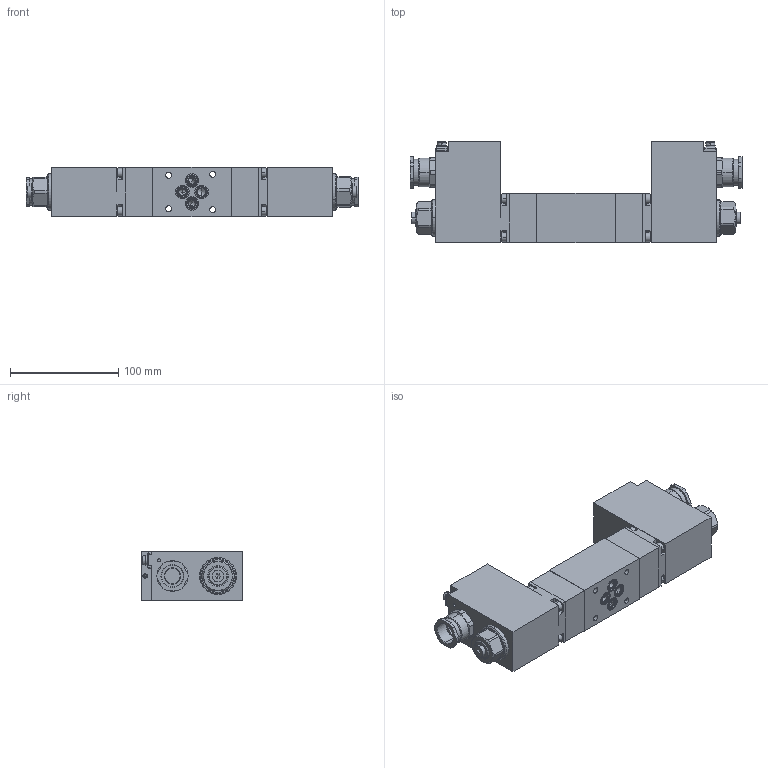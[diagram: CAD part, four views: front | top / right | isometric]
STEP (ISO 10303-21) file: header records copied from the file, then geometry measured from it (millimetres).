
FILE_DESCRIPTION (( 'STEP AP214' ), '1' );
FILE_NAME ('AEXd3206rr.STEP', '2018-09-28T09:41:39', ( '' ), ( '' ), 'SwSTEP 2.0', 'SolidWorks 2016', '' );
FILE_SCHEMA (( 'AUTOMOTIVE_DESIGN' ));
Length unit declared in the file: millimetre
Products named in the file (2): AEXd3206rr
Bounding box: 306.4 x 93.65 x 46 mm (x, y, z)
Volume: 804905.5 mm3; surface area: 104959.1 mm2
Topology: 13 solids, 13 shells, 1012 faces, 2472 edges, 1562 vertices
Faces by surface type: plane 512, cylinder 300, cone 106, torus 52, bspline 42
Entity records: 43065 total; most frequent: CARTESIAN_POINT 8072, DIRECTION 5014, ORIENTED_EDGE 4856, EDGE_CURVE 2428, AXIS2_PLACEMENT_3D 1860, VERTEX_POINT 1558, LINE 1294, VECTOR 1294
